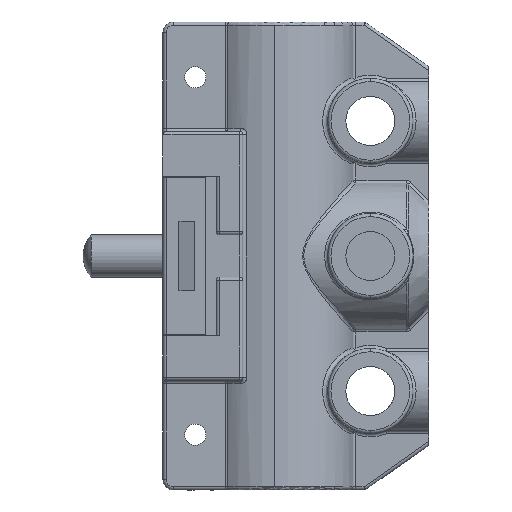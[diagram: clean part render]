
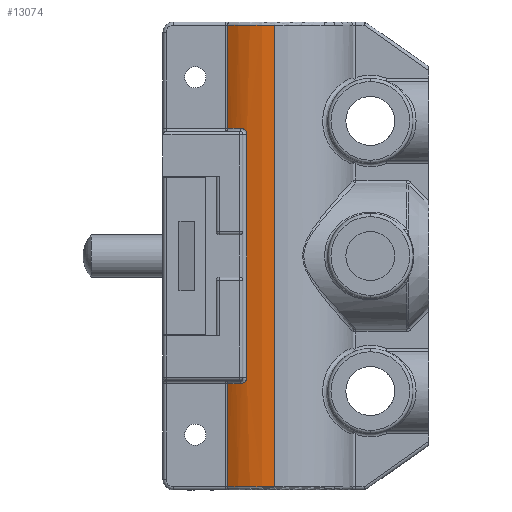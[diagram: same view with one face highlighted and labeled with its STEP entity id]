
A CAD part, left-side view. The second image highlights one B-rep face of the part: STEP entity #13074.
In plain terms, the highlighted cylindrical face has radius 7.5 mm (diameter 15 mm), a partial arc.
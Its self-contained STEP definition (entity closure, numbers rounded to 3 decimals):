
#12 = DIRECTION ( 'NONE',  ( 1., 0., 0. ) ) ;
#289 = LINE ( 'NONE', #13268, #5900 ) ;
#569 = VERTEX_POINT ( 'NONE', #7981 ) ;
#604 = VECTOR ( 'NONE', #5017, 1000. ) ;
#632 = ORIENTED_EDGE ( 'NONE', *, *, #11960, .T. ) ;
#713 = CIRCLE ( 'NONE', #8403, 7.5 ) ;
#785 = DIRECTION ( 'NONE',  ( 0., 0., -1. ) ) ;
#826 = DIRECTION ( 'NONE',  ( 0., 1., 0. ) ) ;
#878 = LINE ( 'NONE', #3153, #3984 ) ;
#944 = AXIS2_PLACEMENT_3D ( 'NONE', #4962, #8061, #9243 ) ;
#952 = DIRECTION ( 'NONE',  ( 0., 0., -1. ) ) ;
#1016 = EDGE_CURVE ( 'NONE', #569, #13538, #289, .T. ) ;
#1109 = EDGE_CURVE ( 'NONE', #12129, #569, #9492, .T. ) ;
#1170 = DIRECTION ( 'NONE',  ( 0., 0., -1. ) ) ;
#1240 = B_SPLINE_CURVE_WITH_KNOTS ( 'NONE', 3,
 ( #1875, #13579, #4061, #10474, #8156, #10203 ),
 .UNSPECIFIED., .F., .F.,
 ( 4, 2, 4 ),
 ( 0., 0., 0.001 ),
 .UNSPECIFIED. ) ;
#1532 = VERTEX_POINT ( 'NONE', #3182 ) ;
#1773 = CIRCLE ( 'NONE', #11433, 7.5 ) ;
#1817 = CIRCLE ( 'NONE', #5646, 7.5 ) ;
#1875 = CARTESIAN_POINT ( 'NONE',  ( -7.036, 2.596, 11.4 ) ) ;
#1890 = B_SPLINE_CURVE_WITH_KNOTS ( 'NONE', 3,
 ( #1938, #9333, #4056, #13639, #13787, #7153 ),
 .UNSPECIFIED., .F., .F.,
 ( 4, 2, 4 ),
 ( 0., 0., 0.001 ),
 .UNSPECIFIED. ) ;
#1938 = CARTESIAN_POINT ( 'NONE',  ( -6.796, 3.173, -12. ) ) ;
#2025 = EDGE_CURVE ( 'NONE', #8598, #13194, #10257, .T. ) ;
#2029 = CARTESIAN_POINT ( 'NONE',  ( 0., 0., 21.7 ) ) ;
#2155 = VECTOR ( 'NONE', #785, 1000. ) ;
#2835 = EDGE_CURVE ( 'NONE', #1532, #9219, #878, .T. ) ;
#2915 = CARTESIAN_POINT ( 'NONE',  ( -6.058, 4.422, 12. ) ) ;
#2991 = CARTESIAN_POINT ( 'NONE',  ( -7.5, 0., 22. ) ) ;
#3153 = CARTESIAN_POINT ( 'NONE',  ( -7.036, 2.596, 22. ) ) ;
#3182 = CARTESIAN_POINT ( 'NONE',  ( -7.036, 2.596, 11.4 ) ) ;
#3432 = CARTESIAN_POINT ( 'NONE',  ( -7.036, 2.596, -11.4 ) ) ;
#3512 = VERTEX_POINT ( 'NONE', #2915 ) ;
#3918 = ORIENTED_EDGE ( 'NONE', *, *, #1109, .T. ) ;
#3952 = DIRECTION ( 'NONE',  ( 0., 0., 1. ) ) ;
#3984 = VECTOR ( 'NONE', #952, 1000. ) ;
#4056 = CARTESIAN_POINT ( 'NONE',  ( -6.927, 2.879, -11.939 ) ) ;
#4061 = CARTESIAN_POINT ( 'NONE',  ( -7.013, 2.662, 11.72 ) ) ;
#4352 = EDGE_CURVE ( 'NONE', #6615, #3512, #7115, .T. ) ;
#4353 = CYLINDRICAL_SURFACE ( 'NONE', #9789, 7.5 ) ;
#4931 = DIRECTION ( 'NONE',  ( 0., 0., -1. ) ) ;
#4962 = CARTESIAN_POINT ( 'NONE',  ( 0., 0., -12. ) ) ;
#5016 = ORIENTED_EDGE ( 'NONE', *, *, #2835, .T. ) ;
#5017 = DIRECTION ( 'NONE',  ( 0., 0., -1. ) ) ;
#5082 = CARTESIAN_POINT ( 'NONE',  ( -6.058, 4.422, 22. ) ) ;
#5287 = EDGE_CURVE ( 'NONE', #8598, #6615, #1773, .T. ) ;
#5432 = ORIENTED_EDGE ( 'NONE', *, *, #2025, .F. ) ;
#5646 = AXIS2_PLACEMENT_3D ( 'NONE', #6055, #3952, #826 ) ;
#5900 = VECTOR ( 'NONE', #7833, 1000. ) ;
#6055 = CARTESIAN_POINT ( 'NONE',  ( 0., 0., 12. ) ) ;
#6364 = CARTESIAN_POINT ( 'NONE',  ( 0., 0., -21.7 ) ) ;
#6601 = FACE_OUTER_BOUND ( 'NONE', #12754, .T. ) ;
#6615 = VERTEX_POINT ( 'NONE', #13592 ) ;
#7115 = LINE ( 'NONE', #5082, #604 ) ;
#7153 = CARTESIAN_POINT ( 'NONE',  ( -7.036, 2.596, -11.4 ) ) ;
#7453 = CARTESIAN_POINT ( 'NONE',  ( -6.796, 3.173, 12. ) ) ;
#7784 = EDGE_CURVE ( 'NONE', #1532, #10435, #1240, .T. ) ;
#7833 = DIRECTION ( 'NONE',  ( 0., 0., -1. ) ) ;
#7854 = ORIENTED_EDGE ( 'NONE', *, *, #5287, .T. ) ;
#7981 = CARTESIAN_POINT ( 'NONE',  ( -6.058, 4.422, -12. ) ) ;
#8061 = DIRECTION ( 'NONE',  ( 0., 0., -1. ) ) ;
#8156 = CARTESIAN_POINT ( 'NONE',  ( -6.864, 3.026, 12. ) ) ;
#8174 = DIRECTION ( 'NONE',  ( 1., 0., 0. ) ) ;
#8403 = AXIS2_PLACEMENT_3D ( 'NONE', #6364, #8553, #12 ) ;
#8482 = CARTESIAN_POINT ( 'NONE',  ( -6.796, 3.173, -12. ) ) ;
#8515 = CARTESIAN_POINT ( 'NONE',  ( -7.5, 0., -21.7 ) ) ;
#8553 = DIRECTION ( 'NONE',  ( 0., 0., 1. ) ) ;
#8598 = VERTEX_POINT ( 'NONE', #10794 ) ;
#9219 = VERTEX_POINT ( 'NONE', #3432 ) ;
#9243 = DIRECTION ( 'NONE',  ( 0., -1., 0. ) ) ;
#9333 = CARTESIAN_POINT ( 'NONE',  ( -6.864, 3.026, -12. ) ) ;
#9492 = CIRCLE ( 'NONE', #944, 7.5 ) ;
#9540 = ORIENTED_EDGE ( 'NONE', *, *, #4352, .T. ) ;
#9789 = AXIS2_PLACEMENT_3D ( 'NONE', #9843, #1170, #13018 ) ;
#9834 = EDGE_CURVE ( 'NONE', #3512, #10435, #1817, .T. ) ;
#9843 = CARTESIAN_POINT ( 'NONE',  ( 0., 0., 22. ) ) ;
#10203 = CARTESIAN_POINT ( 'NONE',  ( -6.796, 3.173, 12. ) ) ;
#10257 = LINE ( 'NONE', #2991, #2155 ) ;
#10435 = VERTEX_POINT ( 'NONE', #7453 ) ;
#10456 = ORIENTED_EDGE ( 'NONE', *, *, #11651, .F. ) ;
#10474 = CARTESIAN_POINT ( 'NONE',  ( -6.926, 2.88, 11.94 ) ) ;
#10794 = CARTESIAN_POINT ( 'NONE',  ( -7.5, 0., 21.7 ) ) ;
#11433 = AXIS2_PLACEMENT_3D ( 'NONE', #2029, #4931, #8174 ) ;
#11521 = ORIENTED_EDGE ( 'NONE', *, *, #7784, .F. ) ;
#11651 = EDGE_CURVE ( 'NONE', #12129, #9219, #1890, .T. ) ;
#11960 = EDGE_CURVE ( 'NONE', #13538, #13194, #713, .T. ) ;
#12129 = VERTEX_POINT ( 'NONE', #8482 ) ;
#12754 = EDGE_LOOP ( 'NONE', ( #5432, #7854, #9540, #13345, #11521, #5016, #10456, #3918, #13359, #632 ) ) ;
#13018 = DIRECTION ( 'NONE',  ( -1., 0., 0. ) ) ;
#13074 = ADVANCED_FACE ( 'NONE', ( #6601 ), #4353, .T. ) ;
#13194 = VERTEX_POINT ( 'NONE', #8515 ) ;
#13268 = CARTESIAN_POINT ( 'NONE',  ( -6.058, 4.422, 22. ) ) ;
#13345 = ORIENTED_EDGE ( 'NONE', *, *, #9834, .T. ) ;
#13359 = ORIENTED_EDGE ( 'NONE', *, *, #1016, .T. ) ;
#13526 = CARTESIAN_POINT ( 'NONE',  ( -6.058, 4.422, -21.7 ) ) ;
#13538 = VERTEX_POINT ( 'NONE', #13526 ) ;
#13579 = CARTESIAN_POINT ( 'NONE',  ( -7.036, 2.596, 11.562 ) ) ;
#13592 = CARTESIAN_POINT ( 'NONE',  ( -6.058, 4.422, 21.7 ) ) ;
#13639 = CARTESIAN_POINT ( 'NONE',  ( -7.013, 2.662, -11.72 ) ) ;
#13787 = CARTESIAN_POINT ( 'NONE',  ( -7.036, 2.596, -11.562 ) ) ;
